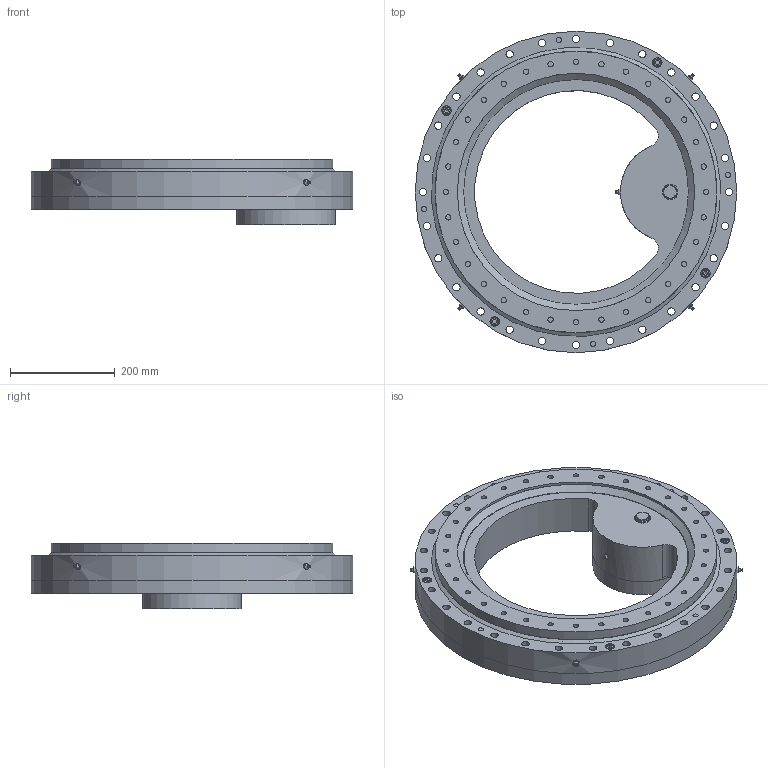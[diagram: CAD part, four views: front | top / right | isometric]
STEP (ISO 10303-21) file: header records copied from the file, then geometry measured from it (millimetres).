
FILE_DESCRIPTION(/* description */ ('STEP AP214'),/* implementation_level */ '2;1');
FILE_NAME(/* name */ '\\Serwer-ad\dnia$\dnia_tomasz_tb\Desktop\Tomcio\1. Cenniki + katalogi + materiały\U- Transmission\Katalogi 2023\Wersja NATECH DRV\Inner gear - slew drive\Our inner gear slew drive STEP\PT-M-0541-I-B-S.stp',/* time_stamp */ '2024-04-30T10:32:27+02:00',/* author */ ('dnia_tomasz_tb'),/* organization */ (''),/* preprocessor_version */ 'ST-DEVELOPER v19',/* originating_system */ 'Autodesk Inventor 2023',/* authorisation */ '');
FILE_SCHEMA (('AUTOMOTIVE_DESIGN { 1 0 10303 214 3 1 1 }'));
Length unit declared in the file: millimetre
Products named in the file (1): PT-M-0541-I-B-S
Bounding box: 615 x 615 x 126 mm (x, y, z)
Surface area: 1048610.6 mm2 (no closed solid volume)
Topology: 0 solids, 55 shells, 339 faces, 1176 edges, 836 vertices
Faces by surface type: plane 151, cylinder 132, cone 23, torus 20, sphere 13
Full cylindrical faces by diameter (mm): 2 x1, 8.5 x8, 10 x4, 10.2 x32, 14 x28, 16 x28, 18 x12, 26 x1, 30 x1, 65 x1, 80 x1, 88.333 x1, 130 x1, 190 x1, 454 x1, 539 x1, 615 x2
Entity records: 16397 total; most frequent: CARTESIAN_POINT 5337, DIRECTION 2317, ORIENTED_EDGE 1784, EDGE_CURVE 1140, AXIS2_PLACEMENT_3D 913, VERTEX_POINT 836, EDGE_LOOP 598, CIRCLE 573
